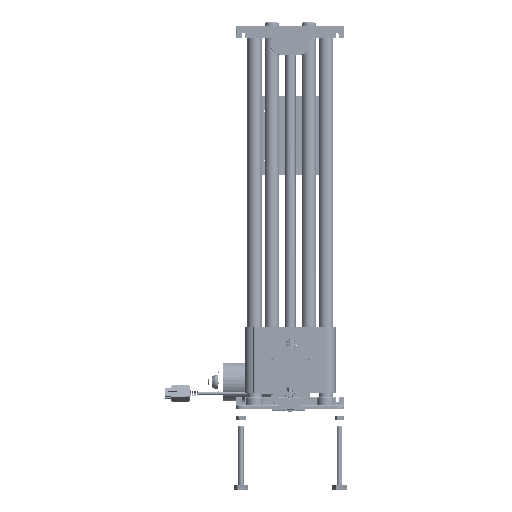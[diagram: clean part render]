
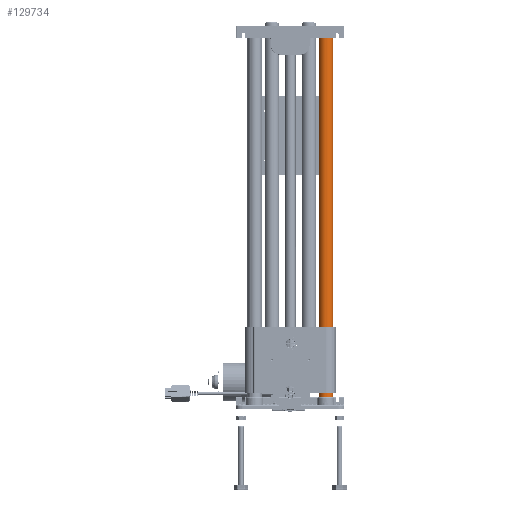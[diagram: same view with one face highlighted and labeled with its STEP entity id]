
A CAD part, front view. The second image highlights one B-rep face of the part: STEP entity #129734.
In plain terms, the highlighted cylindrical face has radius 11.05 mm (diameter 22.1 mm), a partial arc.
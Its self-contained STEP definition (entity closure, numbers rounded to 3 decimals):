
#3075=CYLINDRICAL_SURFACE('',#138339,11.05);
#7106=LINE('',#204895,#16915);
#7107=LINE('',#204901,#16916);
#7108=LINE('',#204903,#16917);
#7109=LINE('',#204906,#16918);
#16915=VECTOR('',#156412,10.);
#16916=VECTOR('',#156419,10.);
#16917=VECTOR('',#156420,10.);
#16918=VECTOR('',#156423,10.);
#27409=FACE_OUTER_BOUND('',#35353,.T.);
#35353=EDGE_LOOP('',(#84839,#84840,#84841,#84842,#84843,#84844));
#43444=CIRCLE('',#138340,11.05);
#43445=CIRCLE('',#138341,11.05);
#51889=VERTEX_POINT('',#204880);
#51890=VERTEX_POINT('',#204894);
#51891=VERTEX_POINT('',#204898);
#51892=VERTEX_POINT('',#204900);
#51893=VERTEX_POINT('',#204902);
#51894=VERTEX_POINT('',#204904);
#63954=EDGE_CURVE('',#51890,#51889,#7106,.T.);
#63956=EDGE_CURVE('',#51891,#51889,#43444,.T.);
#63957=EDGE_CURVE('',#51891,#51892,#7107,.T.);
#63958=EDGE_CURVE('',#51893,#51892,#7108,.T.);
#63959=EDGE_CURVE('',#51894,#51893,#43445,.T.);
#63960=EDGE_CURVE('',#51890,#51894,#7109,.T.);
#84839=ORIENTED_EDGE('',*,*,#63956,.F.);
#84840=ORIENTED_EDGE('',*,*,#63957,.T.);
#84841=ORIENTED_EDGE('',*,*,#63958,.F.);
#84842=ORIENTED_EDGE('',*,*,#63959,.F.);
#84843=ORIENTED_EDGE('',*,*,#63960,.F.);
#84844=ORIENTED_EDGE('',*,*,#63954,.T.);
#129734=ADVANCED_FACE('',(#27409),#3075,.T.);
#138339=AXIS2_PLACEMENT_3D('',#204897,#156415,#156416);
#138340=AXIS2_PLACEMENT_3D('',#204899,#156417,#156418);
#138341=AXIS2_PLACEMENT_3D('',#204905,#156421,#156422);
#156412=DIRECTION('',(0.,0.,-1.));
#156415=DIRECTION('center_axis',(0.,0.,
-1.));
#156416=DIRECTION('ref_axis',(1.,0.,0.));
#156417=DIRECTION('center_axis',(0.,0.,
-1.));
#156418=DIRECTION('ref_axis',(1.,0.,0.));
#156419=DIRECTION('',(0.,0.,1.));
#156420=DIRECTION('',(0.,0.,-1.));
#156421=DIRECTION('center_axis',(0.,0.,
1.));
#156422=DIRECTION('ref_axis',(1.,0.,0.));
#156423=DIRECTION('',(0.,0.,1.));
#204880=CARTESIAN_POINT('',(43.055,-1.516,17.866));
#204894=CARTESIAN_POINT('',(43.055,-1.516,562.));
#204895=CARTESIAN_POINT('',(43.055,-1.516,6.));
#204897=CARTESIAN_POINT('Origin',(54.,0.,
574.));
#204898=CARTESIAN_POINT('',(64.946,-1.516,17.866));
#204899=CARTESIAN_POINT('Origin',(54.,0.,17.866));
#204900=CARTESIAN_POINT('',(64.946,-1.516,562.));
#204901=CARTESIAN_POINT('',(64.946,-1.516,6.));
#204902=CARTESIAN_POINT('',(64.946,-1.516,562.134));
#204903=CARTESIAN_POINT('',(64.946,-1.516,574.));
#204904=CARTESIAN_POINT('',(43.055,-1.516,562.134));
#204905=CARTESIAN_POINT('Origin',(54.,0.,
562.134));
#204906=CARTESIAN_POINT('',(43.055,-1.516,574.));
